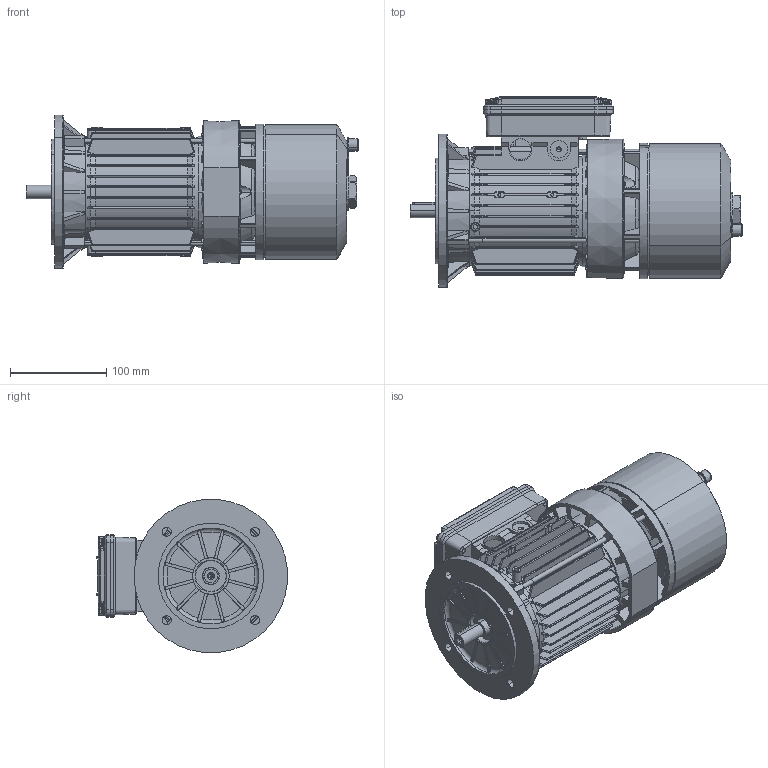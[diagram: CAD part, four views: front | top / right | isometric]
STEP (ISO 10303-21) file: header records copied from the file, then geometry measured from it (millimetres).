
FILE_DESCRIPTION (( 'STEP AP214' ), '1' );
FILE_NAME ('BA 71 B5 - DM.STEP', '2017-10-16T10:20:14', ( '' ), ( '' ), 'SwSTEP 2.0', 'SolidWorks 2017', '' );
FILE_SCHEMA (( 'AUTOMOTIVE_DESIGN' ));
Length unit declared in the file: millimetre
Products named in the file (14): Tirante BA 71 - DBA60094; Vite a Testa Esagona con foro e tappo 71-112 - Modificata; Cuffia serie BA 71; Convogliatore con pista di attrito P2 BA 71 - DBAF0095; Scudo Lato Freno BA 71 P1 - DBAE0094; Chiavetta 71; Scudo a flangia B5 Fi 160 BA-BM 71; Albero BA 71; Carcassa 71 B5; BA 71 B5 - DM; Scatola per Morsettiera Doppia 63-71-80 - Completa; Vite per coperchio morsettiera; Coperchio per Scatola per Morsettiera Doppia 63-71-80; Scatola per Morsettiera Doppia 63-71-80
Assembly tree (18 placements, depth 3):
  BA 71 B5 - DM
    Carcassa 71 B5
    Albero BA 71
    Scudo a flangia B5 Fi 160 BA-BM 71
    Chiavetta 71
    Scudo Lato Freno BA 71 P1 - DBAE0094
    Convogliatore con pista di attrito P2 BA 71 - DBAF0095
    Cuffia serie BA 71
    Vite a Testa Esagona con foro e tappo 71-112 - Modificata
    Tirante BA 71 - DBA60094  x3
    Scatola per Morsettiera Doppia 63-71-80 - Completa
      Scatola per Morsettiera Doppia 63-71-80
      Coperchio per Scatola per Morsettiera Doppia 63-71-80
      Vite per coperchio morsettiera  x4
Bounding box: 345.68 x 198.7 x 159.39 mm (x, y, z)
Volume: 1026845.5 mm3; surface area: 637900 mm2
Topology: 20 solids, 20 shells, 3068 faces, 8255 edges, 5129 vertices
Faces by surface type: plane 1012, cylinder 856, torus 408, cone 397, bspline 387, sphere 8
Entity records: 104766 total; most frequent: CARTESIAN_POINT 36398, ORIENTED_EDGE 15158, DIRECTION 12911, EDGE_CURVE 7579, AXIS2_PLACEMENT_3D 5041, VERTEX_POINT 4815, EDGE_LOOP 2992, FACE_OUTER_BOUND 2834
